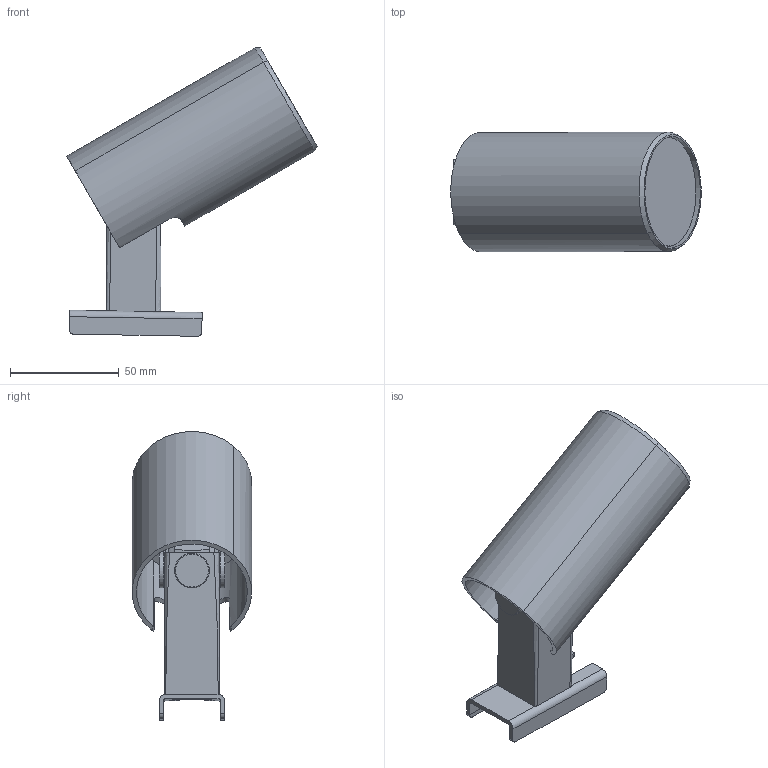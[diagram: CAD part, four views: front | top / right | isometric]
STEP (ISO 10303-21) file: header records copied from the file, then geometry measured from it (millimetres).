
FILE_DESCRIPTION (( 'STEP AP214' ), '1' );
FILE_NAME ('993447.STEP', '2025-10-01T11:49:38', ( '' ), ( '' ), 'SwSTEP 2.0', 'SolidWorks 2025', '' );
FILE_SCHEMA (( 'AUTOMOTIVE_DESIGN' ));
Length unit declared in the file: millimetre
Products named in the file (1): 993447
Bounding box: 115.18 x 54.93 x 132.84 mm (x, y, z)
Volume: 152445.7 mm3; surface area: 62100 mm2
Topology: 6 solids, 6 shells, 240 faces, 607 edges, 380 vertices
Faces by surface type: plane 144, cylinder 47, bspline 41, cone 8
Entity records: 8746 total; most frequent: CARTESIAN_POINT 2843, ORIENTED_EDGE 1214, DIRECTION 1029, EDGE_CURVE 607, VERTEX_POINT 380, LINE 371, VECTOR 371, AXIS2_PLACEMENT_3D 329
